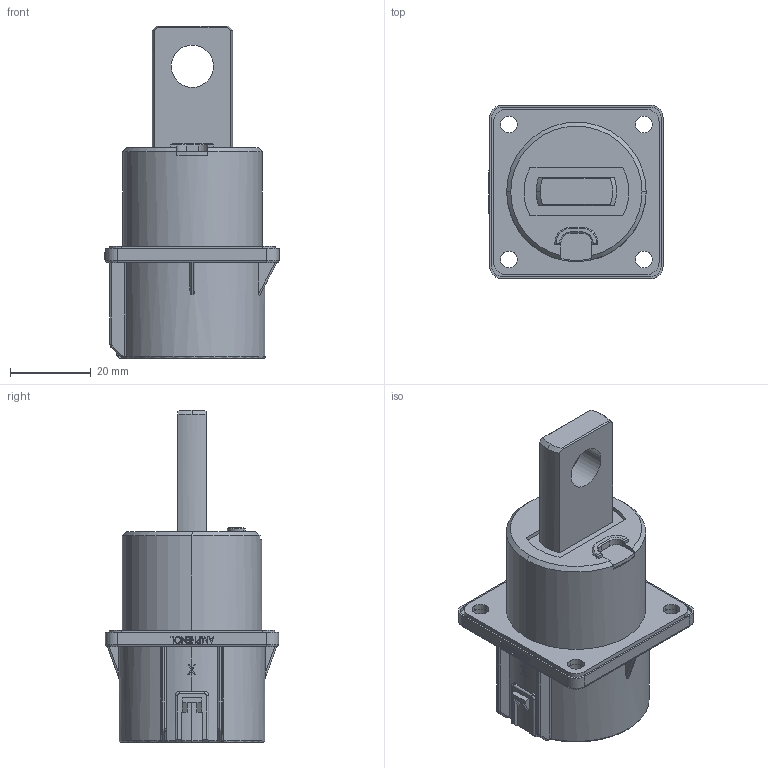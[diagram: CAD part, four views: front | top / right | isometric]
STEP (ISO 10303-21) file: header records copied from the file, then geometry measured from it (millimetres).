
FILE_DESCRIPTION (( 'STEP AP214' ), '1' );
FILE_NAME ('PL00X400-90D10.STEP', '2014-12-10T05:32:45', ( '' ), ( '' ), 'SwSTEP 2.0', 'SolidWorks 2014', '' );
FILE_SCHEMA (( 'AUTOMOTIVE_DESIGN' ));
Length unit declared in the file: millimetre
Products named in the file (1): PL00X400-90D10
Bounding box: 43.2 x 43 x 82.4 mm (x, y, z)
Volume: 41837.6 mm3; surface area: 15134.2 mm2
Topology: 1 solids, 1 shells, 399 faces, 1056 edges, 682 vertices
Faces by surface type: plane 230, cylinder 105, torus 25, cone 21, bspline 18
Entity records: 17906 total; most frequent: CARTESIAN_POINT 3684, ORIENTED_EDGE 2108, DIRECTION 2002, EDGE_CURVE 1054, VERTEX_POINT 682, AXIS2_PLACEMENT_3D 678, LINE 646, VECTOR 646
